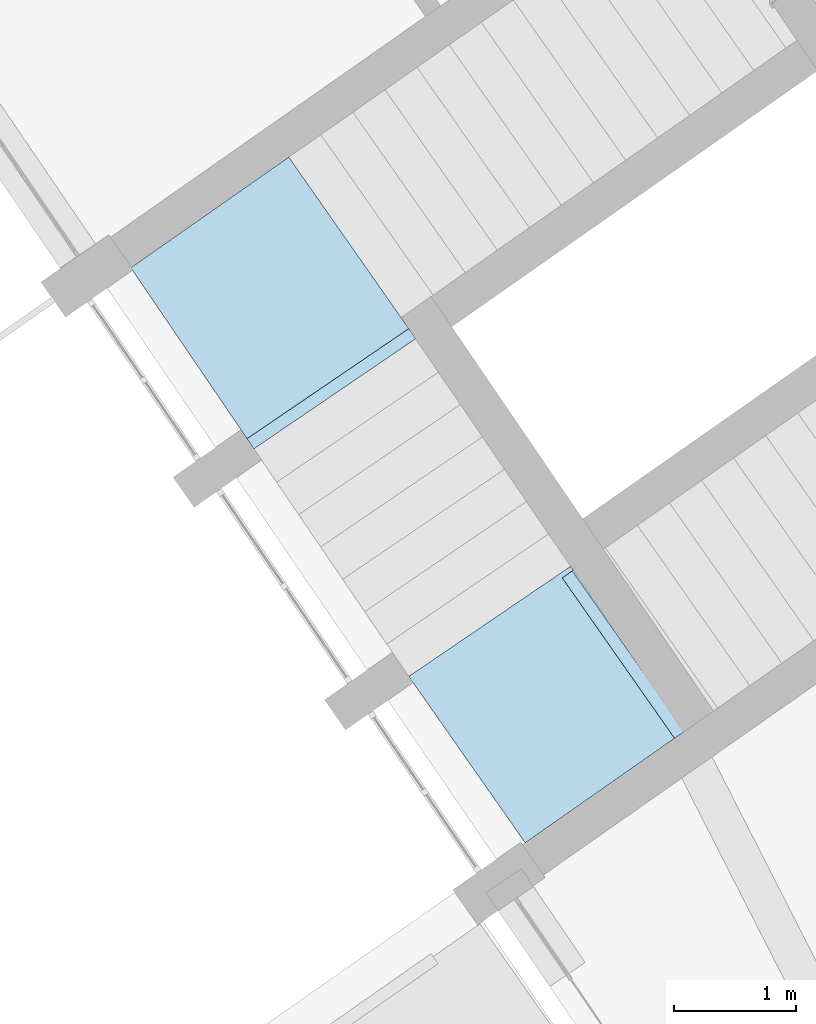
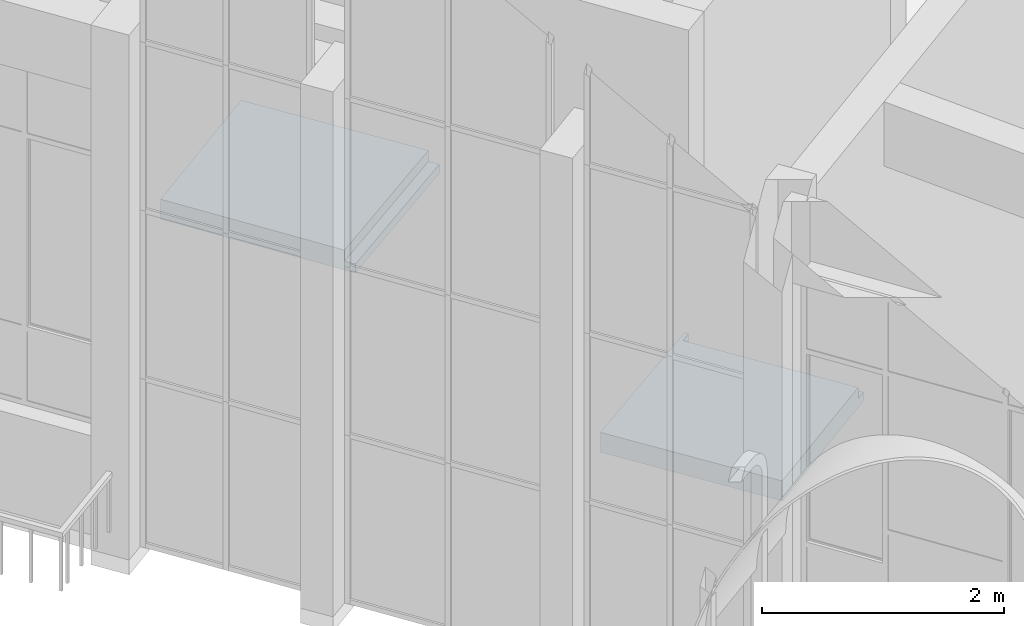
# One storey, part 120 of 157: 2 slabs, 1 element without a shape of its own.
"""IFC2X3 building model written with IfcOpenShell, lengths in millimetres."""

from ifc_helpers import new_model, entity, si_unit, converted_unit, derived_unit, direction, frame, origin, place, context, subcontext, project, spatial, faceted_brep, material, type_object, element, aggregate, save


model = new_model("IFC2X3")

# Units and contexts
model_context = context("Model", 3, precision=0.01, world=origin(), true_north=direction((6.123031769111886e-17, 1.0)))
body_context = subcontext(model_context, "Body", "Model", "MODEL_VIEW")
ifc_project = project(units=[si_unit("LENGTHUNIT", "METRE", prefix="MILLI"), si_unit("AREAUNIT", "SQUARE_METRE"), si_unit("VOLUMEUNIT", "CUBIC_METRE"), converted_unit("PLANEANGLEUNIT", "DEGREE", entity("IfcRatioMeasure", 0.017453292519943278), si_unit("PLANEANGLEUNIT", "RADIAN"), dimensions=[0, 0, 0, 0, 0, 0, 0]), si_unit("MASSUNIT", "GRAM", prefix="KILO"), derived_unit("MASSDENSITYUNIT", [(si_unit("MASSUNIT", "GRAM", prefix="KILO"), 1), (si_unit("LENGTHUNIT", "METRE"), -3)]), derived_unit("MOMENTOFINERTIAUNIT", [(si_unit("LENGTHUNIT", "METRE"), 4)]), si_unit("TIMEUNIT", "SECOND"), si_unit("FREQUENCYUNIT", "HERTZ"), si_unit("THERMODYNAMICTEMPERATUREUNIT", "DEGREE_CELSIUS"), derived_unit("THERMALTRANSMITTANCEUNIT", [(si_unit("MASSUNIT", "GRAM", prefix="KILO"), 1), (si_unit("THERMODYNAMICTEMPERATUREUNIT", "KELVIN"), -1), (si_unit("TIMEUNIT", "SECOND"), -3)]), derived_unit("THERMALCONDUCTANCEUNIT", [(si_unit("MASSUNIT", "GRAM", prefix="KILO"), 1), (si_unit("LENGTHUNIT", "METRE"), 1), (si_unit("THERMODYNAMICTEMPERATUREUNIT", "KELVIN"), -1), (si_unit("TIMEUNIT", "SECOND"), -3)]), derived_unit("VOLUMETRICFLOWRATEUNIT", [(si_unit("LENGTHUNIT", "METRE"), 3), (si_unit("TIMEUNIT", "SECOND"), -1)]), derived_unit("MASSFLOWRATEUNIT", [(si_unit("MASSUNIT", "GRAM", prefix="KILO"), 1), (si_unit("TIMEUNIT", "SECOND"), -1)]), derived_unit("ROTATIONALFREQUENCYUNIT", [(si_unit("TIMEUNIT", "SECOND"), -1)]), si_unit("ELECTRICCURRENTUNIT", "AMPERE"), si_unit("ELECTRICVOLTAGEUNIT", "VOLT"), si_unit("POWERUNIT", "WATT"), converted_unit("FORCEUNIT", "KIP", entity("IfcRatioMeasure", 2.088543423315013e-05), si_unit("FORCEUNIT", "NEWTON"), dimensions=[1, 1, -2, 0, 0, 0, 0]), si_unit("ILLUMINANCEUNIT", "LUX"), si_unit("LUMINOUSFLUXUNIT", "LUMEN"), si_unit("LUMINOUSINTENSITYUNIT", "CANDELA"), derived_unit("USERDEFINED", [(si_unit("MASSUNIT", "GRAM", prefix="KILO"), -1), (si_unit("LENGTHUNIT", "METRE"), -2), (si_unit("TIMEUNIT", "SECOND"), 3), (si_unit("LUMINOUSFLUXUNIT", "LUMEN"), 1)]), derived_unit("USERDEFINED", [(si_unit("MASSUNIT", "GRAM", prefix="KILO"), 1), (si_unit("LENGTHUNIT", "METRE"), 3), (si_unit("TIMEUNIT", "SECOND"), -3), (si_unit("ELECTRICCURRENTUNIT", "AMPERE"), -2)]), derived_unit("USERDEFINED", [(si_unit("LENGTHUNIT", "METRE"), 2), (si_unit("TIMEUNIT", "SECOND"), -2)]), derived_unit("SOUNDPOWERUNIT", [(si_unit("MASSUNIT", "GRAM", prefix="KILO"), 1), (si_unit("LENGTHUNIT", "METRE"), 2), (si_unit("TIMEUNIT", "SECOND"), -3)]), derived_unit("SOUNDPRESSUREUNIT", [(si_unit("MASSUNIT", "GRAM", prefix="KILO"), 1), (si_unit("LENGTHUNIT", "METRE"), -1), (si_unit("TIMEUNIT", "SECOND"), -2)]), derived_unit("LINEARVELOCITYUNIT", [(si_unit("LENGTHUNIT", "METRE"), 1), (si_unit("TIMEUNIT", "SECOND"), -1)]), si_unit("PRESSUREUNIT", "PASCAL"), derived_unit("USERDEFINED", [(si_unit("LENGTHUNIT", "METRE"), -2), (si_unit("MASSUNIT", "GRAM", prefix="KILO"), 1), (si_unit("TIMEUNIT", "SECOND"), -2)]), derived_unit("LINEARFORCEUNIT", [(si_unit("MASSUNIT", "GRAM", prefix="KILO"), 1), (si_unit("LENGTHUNIT", "METRE"), 1), (si_unit("TIMEUNIT", "SECOND"), -2), (si_unit("LENGTHUNIT", "METRE"), -1)]), derived_unit("PLANARFORCEUNIT", [(si_unit("MASSUNIT", "GRAM", prefix="KILO"), 1), (si_unit("LENGTHUNIT", "METRE"), 1), (si_unit("TIMEUNIT", "SECOND"), -2), (si_unit("LENGTHUNIT", "METRE"), -2)]), derived_unit("SPECIFICHEATCAPACITYUNIT", [(si_unit("LENGTHUNIT", "METRE"), 2), (si_unit("TIMEUNIT", "SECOND"), -2), (si_unit("THERMODYNAMICTEMPERATUREUNIT", "KELVIN"), -1)]), derived_unit("VAPORPERMEABILITYUNIT", [(si_unit("TIMEUNIT", "SECOND"), 1), (si_unit("LENGTHUNIT", "METRE"), -1)]), derived_unit("DYNAMICVISCOSITYUNIT", [(si_unit("MASSUNIT", "GRAM", prefix="KILO"), 1), (si_unit("LENGTHUNIT", "METRE"), -1), (si_unit("TIMEUNIT", "SECOND"), -1)]), derived_unit("THERMALEXPANSIONCOEFFICIENTUNIT", [(si_unit("THERMODYNAMICTEMPERATUREUNIT", "KELVIN"), -1)])], contexts=[model_context])

# Site, building, storey
site_placement = place(None, frame((0.0, 0.0, 0.0), z_axis=(0.0, 0.0, 1.0), x_axis=(0.8191520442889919, 0.5735764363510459, 0.0)))
site = spatial("IfcSite", under=ifc_project, at=site_placement, Name="Default", CompositionType="ELEMENT")
building_placement = place(site_placement, origin())
building = spatial("IfcBuilding", under=site, at=building_placement, CompositionType="ELEMENT")
storey_placement = place(building_placement, origin())
storey = spatial("IfcBuildingStorey", under=building, at=storey_placement, Name="1.EG +0.00", CompositionType="ELEMENT", Elevation=-4.331468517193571e-12)

# Stair, slabs
stair_placement = place(storey_placement, origin())
stair = element("IfcStair", 1, at=stair_placement, inside=storey, Name="Precast Stair:Stair", ObjectType="Precast Stair:Stair_CJC", ShapeType="NOTDEFINED")
ifc_material = material(Name="Concrete, Cast-in-Place gray")
slab_type = type_object("IfcSlabType", Name="Monolithic Landing:200mm_Thickness", PredefinedType="LANDING")
slab_1_placement = place(stair_placement, frame((-222646.35887346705, 113735.39115194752, 0.0)))
slab_1 = element("IfcSlab", 2, at=slab_1_placement, type_object=slab_type, material=ifc_material, Name="Precast Stair:Stair:619710 Landing 1", ObjectType="Monolithic Landing:200mm_Thickness", PredefinedType="LANDING", context=body_context, shape_type="Brep", body=[
    faceted_brep([(1.3456375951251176, 121.5200915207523, 3212.121212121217), (1600.3377077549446, 100.00150476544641, 3212.121212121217), (1600.9602567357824, 210.967762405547, 3212.121212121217), (1600.9602567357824, 1810.9677624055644, 3212.121212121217), (24.081539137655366, 1810.9677624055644, 3212.121212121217), (1.3456375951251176, 121.5200915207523, 3211.121212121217), (24.081539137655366, 1810.9677624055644, 3211.121212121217), (1600.9602567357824, 1810.9677624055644, 3211.121212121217), (1600.9602567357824, 210.967762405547, 3211.121212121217), (1600.3377077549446, 100.00150476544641, 3211.121212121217)], [[[0, 1, 2, 3, 4]], [[5, 6, 7, 8, 9]], [[1, 0, 5, 9]], [[2, 1, 9, 8]], [[4, 3, 7, 6]], [[0, 4, 6, 5]], [[3, 2, 8, 7]]]),
    faceted_brep([(1600.9602567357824, 210.967762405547, 3211.121212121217), (1600.9602567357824, 1810.9677624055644, 3211.121212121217), (24.081539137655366, 1810.9677624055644, 3211.121212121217), (1.3456375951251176, 121.52009152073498, 3211.121212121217), (1600.3377077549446, 100.00150476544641, 3211.121212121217), (1600.9602567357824, 210.967762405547, 3011.121212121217), (1600.3377077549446, 100.00150476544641, 3101.121212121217), (1599.7766738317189, 0.0, 3101.121212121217), (1599.7766738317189, 0.0, 3011.121212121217), (1600.9602567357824, 1810.9677624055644, 3011.121212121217), (24.081539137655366, 1810.9677624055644, 3011.121212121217), (0.0, 21.529145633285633, 3011.121212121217), (0.0, 21.529145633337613, 3101.121212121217), (1.3456375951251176, 121.52009152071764, 3101.121212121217)], [[[0, 1, 2, 3, 4]], [[5, 0, 4, 6, 7, 8]], [[2, 1, 9, 10]], [[2, 10, 11, 12, 13, 3]], [[12, 7, 6, 13]], [[13, 6, 4, 3]], [[7, 12, 11, 8]], [[1, 0, 5, 9]], [[9, 5, 8, 11, 10]]]),
])
slab_2_placement = place(stair_placement, frame((-222677.21995157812, 109846.76840384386, 0.0)))
slab_2 = element("IfcSlab", 3, at=slab_2_placement, type_object=slab_type, material=ifc_material, Name="Precast Stair:Stair:619710 Landing 2", ObjectType="Monolithic Landing:200mm_Thickness", PredefinedType="LANDING", context=body_context, shape_type="Brep", body=[
    faceted_brep([(1490.0, 0.0, 2087.8787878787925), (1490.0, 1600.0, 2087.8787878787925), (1600.0, 1600.0, 2087.8787878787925), (1600.0, 1606.1771958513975, 2087.8787878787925), (1600.4393664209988, 1638.825409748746, 2087.8787878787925), (0.5842322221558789, 1660.355611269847, 2087.8787878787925), (0.0, 1616.9427839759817, 2087.8787878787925), (0.0, 0.0, 2087.8787878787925), (1490.0, 0.0, 2086.8787878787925), (0.0, 0.0, 2086.8787878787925), (0.0, 1616.9427839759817, 2086.8787878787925), (0.5842322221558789, 1660.355611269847, 2086.8787878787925), (1600.4393664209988, 1638.825409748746, 2086.8787878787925), (1600.0, 1606.1771958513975, 2086.8787878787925), (1600.0, 1600.0, 2086.8787878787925), (1490.0, 1600.0, 2086.8787878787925)], [[[0, 1, 2, 3, 4, 5, 6, 7]], [[8, 9, 10, 11, 12, 13, 14, 15]], [[1, 0, 8, 15]], [[2, 1, 15, 14]], [[3, 2, 14, 13]], [[4, 3, 13, 12]], [[5, 4, 12, 11]], [[6, 5, 11, 10]], [[7, 6, 10, 9]], [[0, 7, 9, 8]]]),
    faceted_brep([(1600.0, 1606.1771958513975, 2086.8787878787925), (1600.4393664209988, 1638.825409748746, 2086.8787878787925), (0.5842322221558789, 1660.355611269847, 2086.8787878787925), (0.0, 1616.9427839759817, 2086.8787878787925), (0.0, 0.0, 2086.8787878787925), (1490.0, 0.0, 2086.8787878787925), (1490.0, 1601.5875000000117, 2086.8787878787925), (1600.0, 1601.5875000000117, 2086.8787878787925), (1600.0, 1606.1771958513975, 1886.8787878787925), (1600.0, 1601.5875000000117, 1886.8787878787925), (1600.4393664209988, 1638.825409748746, 1886.8787878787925), (0.5842322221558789, 1660.355611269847, 1886.8787878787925), (0.0, 1616.9427839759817, 1886.8787878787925), (0.0, 0.0, 1886.8787878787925), (1590.0, 0.0, 1886.8787878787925), (1590.0, 0.0, 1976.8787878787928), (1490.0, 0.0, 1976.8787878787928), (1590.0, 1601.587500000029, 1886.8787878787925), (1590.0, 1601.5875000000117, 1976.8787878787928), (1490.0, 1601.5875000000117, 1976.8787878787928)], [[[0, 1, 2, 3, 4, 5, 6, 7]], [[8, 0, 7, 9]], [[1, 0, 8, 10]], [[2, 1, 10, 11]], [[3, 2, 11, 12]], [[4, 3, 12, 13]], [[4, 13, 14, 15, 16, 5]], [[10, 8, 9, 17, 14, 13, 12, 11]], [[18, 19, 16, 15]], [[6, 19, 18, 17, 9, 7]], [[19, 6, 5, 16]], [[18, 15, 14, 17]]]),
])
aggregate(stair, [slab_1, slab_2])

save(model, "model.ifc")
